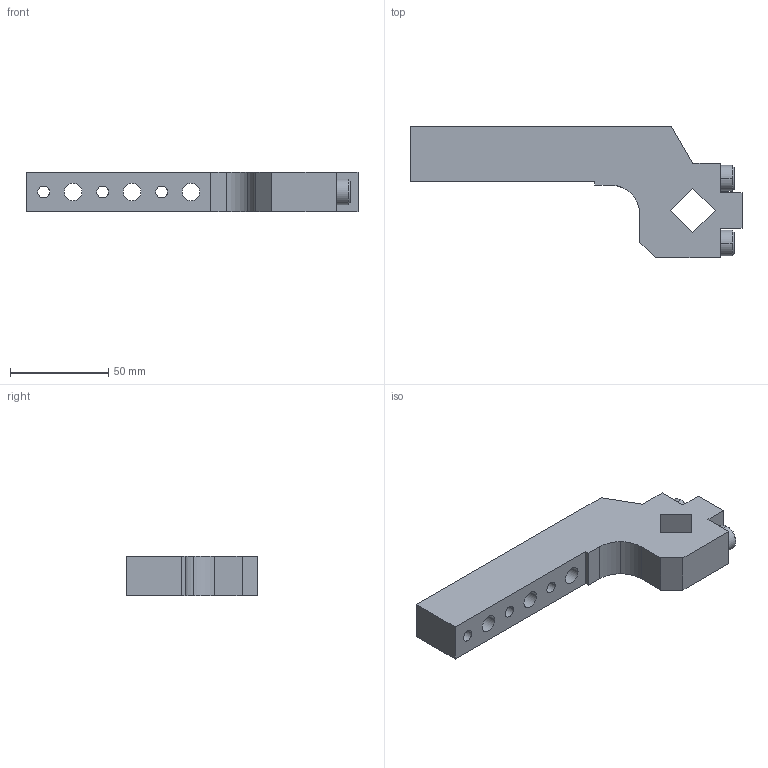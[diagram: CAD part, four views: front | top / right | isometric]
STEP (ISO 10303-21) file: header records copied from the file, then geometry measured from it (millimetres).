
FILE_DESCRIPTION((''),'2;1');
FILE_NAME('S:\Matthew\Step Files\XM Clamp Arms\XJ50-01.stp','2006-06-28T08:07:39',('Matthew'),(''),'Autodesk Inventor 8','Autodesk Inventor 8','');
FILE_SCHEMA(('AUTOMOTIVE_DESIGN { 1 0 10303 214 1 1 1 1 }'));
Length unit declared in the file: millimetre
Products named in the file (1): XJ50-01
Bounding box: 169 x 67 x 20 mm (x, y, z)
Volume: 106825.8 mm3; surface area: 25821.3 mm2
Topology: 1 solids, 1 shells, 59 faces, 155 edges, 102 vertices
Faces by surface type: plane 37, cylinder 18, cone 4
Entity records: 1868 total; most frequent: CARTESIAN_POINT 317, DIRECTION 315, ORIENTED_EDGE 310, EDGE_CURVE 155, VECTOR 115, LINE 115, VERTEX_POINT 102, AXIS2_PLACEMENT_3D 100
